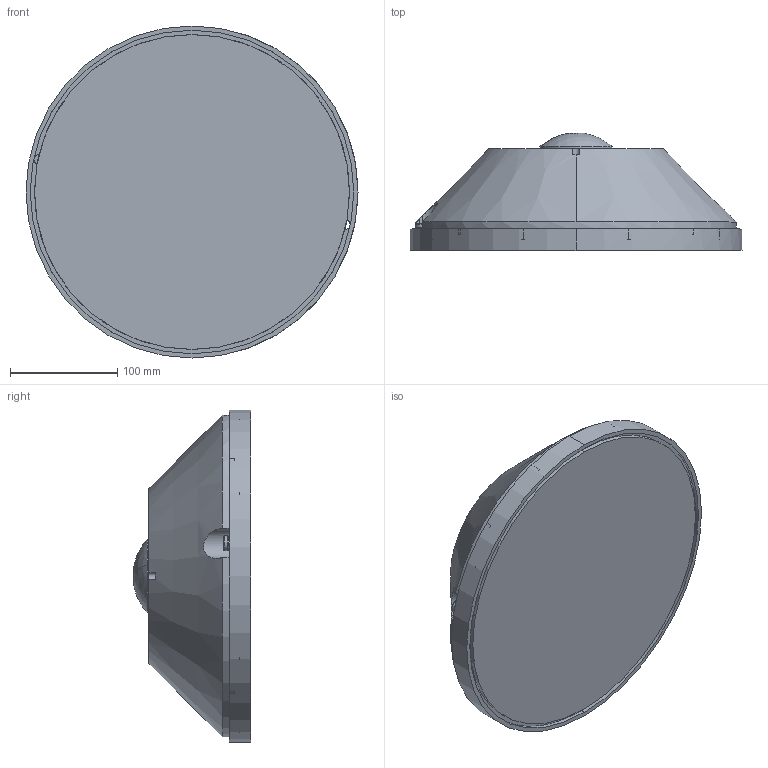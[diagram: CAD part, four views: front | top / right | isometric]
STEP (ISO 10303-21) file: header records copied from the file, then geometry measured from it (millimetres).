
FILE_DESCRIPTION (( 'STEP AP214' ), '1' );
FILE_NAME ('0019652 EZ-0300-310.STEP', '2022-02-28T15:30:04', ( '' ), ( '' ), 'SwSTEP 2.0', 'SolidWorks 2021', '' );
FILE_SCHEMA (( 'AUTOMOTIVE_DESIGN' ));
Length unit declared in the file: millimetre
Products named in the file (1): 0019652 EZ-0300-310
Bounding box: 310 x 109.43 x 310 mm (x, y, z)
Volume: 4930976.5 mm3; surface area: 219448.5 mm2
Topology: 3 solids, 3 shells, 176 faces, 444 edges, 256 vertices
Faces by surface type: cylinder 77, cone 50, plane 43, torus 4, sphere 2
Entity records: 7221 total; most frequent: CARTESIAN_POINT 1116, DIRECTION 925, ORIENTED_EDGE 804, EDGE_CURVE 402, AXIS2_PLACEMENT_3D 373, VERTEX_POINT 256, EDGE_LOOP 206, CIRCLE 196
